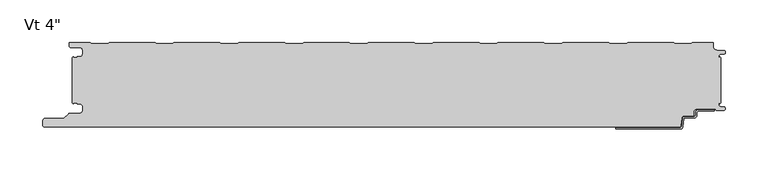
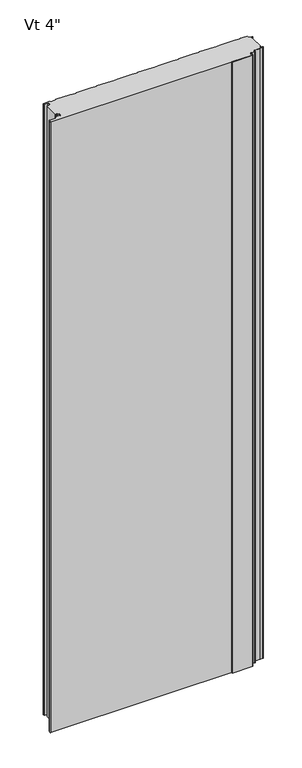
"""IFC4 building model written with IfcOpenShell, lengths in millimetres: plate geometry."""

from ifc_helpers import new_model, si_unit, frame, origin, place, context, project, spatial, polyline, circle_curve, source, transform, mapped, element, save
from ifc_brep_helpers import plane_surface, cylinder_surface, revolved_surface, advanced_brep


def plate_435c7ef1(model_context):
    return source(origin(), model_context, "Body", "AdvancedBrep", [
        advanced_brep(
        [(354.8464083, -80.5008679, 0.0), (373.5916083, -80.5008679, 0.0), (373.5916083, -82.0248679, 0.0), (354.8464083, -82.0248679, 0.0), (353.3224083, -83.5488679, 0.0), (353.3224083, -86.6476679, 0.0), (349.8680083, -90.1020679, 0.0), (338.655451, -90.1020679, 0.0), (337.8963506, -90.7976552, 0.0), (336.701523, -100.3416507, 0.0), (333.6651216, -103.124, 0.0), (258.0978083, -103.1360323, 0.0), (258.0978083, -101.6, 0.0), (333.6651216, -101.6, 0.0), (335.1833223, -100.2088254, 0.0), (336.3781499, -90.6648299, 0.0), (338.655451, -88.5780679, 0.0), (349.8680083, -88.5780679, 0.0), (351.7984083, -86.6476679, 0.0), (351.7984083, -83.5488679, 0.0), (354.8464083, -80.5008679, 2400.0), (351.7984083, -83.5488679, 2400.0), (351.7984083, -86.6476679, 2400.0), (349.8680083, -88.5780679, 2400.0), (338.655451, -88.5780679, 2400.0), (336.3781499, -90.6648299, 2400.0), (335.1833223, -100.2088254, 2400.0), (333.6651216, -101.6, 2400.0), (258.0978083, -101.6, 2400.0), (258.0978083, -103.1360323, 2400.0), (333.6651216, -103.1360323, 2400.0), (336.701523, -100.3416507, 2400.0), (337.8963506, -90.7976552, 2400.0), (338.655451, -90.1020679, 2400.0), (349.8680083, -90.1020679, 2400.0), (353.3224083, -86.6476679, 2400.0), (353.3224083, -83.5488679, 2400.0), (354.8464083, -82.0248679, 2400.0), (373.5916083, -82.0248679, 2400.0), (373.5916083, -80.5008679, 2400.0)],
        [
            (0, 1),
            (1, 2),
            (2, 3),
            (3, 4, circle_curve(frame((354.8464083, -83.5488679, 0.0), z_axis=(0.0, 0.0, 1.0), x_axis=(0.0, 1.0, 0.0)), 1.524)),
            (4, 5),
            (5, 6, circle_curve(frame((349.8680083, -86.6476679, 0.0), z_axis=(0.0, 0.0, -1.0), x_axis=(0.0, 1.0, 0.0)), 3.4544)),
            (6, 7),
            (7, 8, circle_curve(frame((338.655451, -90.8640679, 0.0), z_axis=(0.0, 0.0, 1.0), x_axis=(0.0, 1.0, 0.0)), 0.762)),
            (8, 9),
            (9, 10, circle_curve(frame((333.6651216, -100.076, 0.0), z_axis=(0.0, 0.0, -1.0), x_axis=(0.0, 1.0, 0.0)), 3.048)),
            (10, 11),
            (11, 12),
            (12, 13),
            (13, 14, circle_curve(frame((333.6651216, -100.076, 0.0), z_axis=(0.0, 0.0, 1.0), x_axis=(0.0, 1.0, 0.0)), 1.524)),
            (14, 15),
            (15, 16, circle_curve(frame((338.655451, -90.8640679, 0.0), z_axis=(0.0, 0.0, -1.0), x_axis=(0.0, 1.0, 0.0)), 2.286)),
            (16, 17),
            (17, 18, circle_curve(frame((349.8680083, -86.6476679, 0.0), z_axis=(0.0, 0.0, 1.0), x_axis=(0.0, 1.0, 0.0)), 1.9304)),
            (18, 19),
            (19, 0, circle_curve(frame((354.8464083, -83.5488679, 0.0), z_axis=(0.0, 0.0, -1.0), x_axis=(0.0, 1.0, 0.0)), 3.048)),
            (20, 21, circle_curve(frame((354.8464083, -83.5488679, 2400.0), z_axis=(0.0, 0.0, 1.0), x_axis=(0.0, 1.0, 0.0)), 3.048)),
            (21, 22),
            (22, 23, circle_curve(frame((349.8680083, -86.6476679, 2400.0), z_axis=(0.0, 0.0, -1.0), x_axis=(0.0, 1.0, 0.0)), 1.9304)),
            (23, 24),
            (24, 25, circle_curve(frame((338.655451, -90.8640679, 2400.0), z_axis=(0.0, 0.0, 1.0), x_axis=(0.0, 1.0, 0.0)), 2.286)),
            (25, 26),
            (26, 27, circle_curve(frame((333.6651216, -100.076, 2400.0), z_axis=(0.0, 0.0, -1.0), x_axis=(0.0, 1.0, 0.0)), 1.524)),
            (27, 28),
            (28, 29),
            (29, 30),
            (30, 31, circle_curve(frame((333.6651216, -100.076, 2400.0), z_axis=(0.0, 0.0, 1.0), x_axis=(0.0, 1.0, 0.0)), 3.048)),
            (31, 32),
            (32, 33, circle_curve(frame((338.655451, -90.8640679, 2400.0), z_axis=(0.0, 0.0, -1.0), x_axis=(0.0, 1.0, 0.0)), 0.762)),
            (33, 34),
            (34, 35, circle_curve(frame((349.8680083, -86.6476679, 2400.0), z_axis=(0.0, 0.0, 1.0), x_axis=(0.0, 1.0, 0.0)), 3.4544)),
            (35, 36),
            (36, 37, circle_curve(frame((354.8464083, -83.5488679, 2400.0), z_axis=(0.0, 0.0, -1.0), x_axis=(0.0, 1.0, 0.0)), 1.524)),
            (37, 38),
            (38, 39),
            (39, 20),
            (2, 38),
            (37, 3),
            (15, 25),
            (24, 16),
            (7, 33),
            (32, 8),
            (5, 35),
            (34, 6),
            (1, 39),
            (36, 4),
            (9, 31),
            (30, 10),
            (13, 27),
            (26, 14),
            (0, 20),
            (12, 28),
            (29, 11),
            (23, 17),
            (18, 22),
            (21, 19),
        ],
        [
            plane_surface(frame((373.5916083, -101.6, 0.0), z_axis=(0.0, 0.0, -1.0), x_axis=(-1.0, 0.0, 0.0))),
            plane_surface(frame((373.5916083, -101.6, 2400.0), z_axis=(0.0, 0.0, 1.0), x_axis=(-1.0, 0.0, 0.0))),
            plane_surface(frame((354.8464083, -82.0248679, 0.0), z_axis=(0.0, -1.0, 0.0), x_axis=(0.0, 0.0, 1.0))),
            cylinder_surface(frame((338.655451, -90.8640679, 0.0), z_axis=(0.0, 0.0, -1.0), x_axis=(0.0, 1.0, 0.0)), 2.286),
            revolved_surface(polyline([(338.655451, -90.1020679, 2400.0), (338.655451, -90.1020679, 0.0)]), (338.655451, -90.8640679, 0.0), (0.0, 0.0, 1.0)),
            cylinder_surface(frame((349.8680083, -86.6476679, 0.0), z_axis=(0.0, 0.0, -1.0), x_axis=(0.0, 1.0, 0.0)), 3.4544),
            plane_surface(frame((373.5916083, -82.0248679, 0.0), z_axis=(1.0, 0.0, 0.0), x_axis=(0.0, 0.0, 1.0))),
            revolved_surface(polyline([(354.8464083, -82.0248679, 2400.0), (354.8464083, -82.0248679, 0.0)]), (354.8464083, -83.5488679, 0.0), (0.0, 0.0, 1.0)),
            cylinder_surface(frame((333.6651216, -100.076, 0.0), z_axis=(0.0, 0.0, -1.0), x_axis=(0.0, 1.0, 0.0)), 3.048),
            revolved_surface(polyline([(333.6651216, -98.55199999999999, 2400.0), (333.6651216, -98.55199999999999, 0.0)]), (333.6651216, -100.076, 0.0), (0.0, 0.0, 1.0)),
            plane_surface(frame((373.5916083, -80.5008679, 0.0), z_axis=(0.0, 1.0, 0.0), x_axis=(0.0, 0.0, 1.0))),
            plane_surface(frame((336.3781499, -90.6648299, 0.0), z_axis=(-0.9922544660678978, 0.12422187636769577, 0.0), x_axis=(0.0, 0.0, 1.0))),
            plane_surface(frame((333.6651216, -101.6, 0.0), z_axis=(0.0, 1.0, 0.0), x_axis=(0.0, 0.0, 1.0))),
            plane_surface(frame((336.701523, -100.3416507, 0.0), z_axis=(0.9922544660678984, -0.12422187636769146, 0.0), x_axis=(0.0, 0.0, 1.0))),
            plane_surface(frame((353.3224083, -86.6476679, 0.0), z_axis=(1.0, 0.0, 0.0), x_axis=(0.0, 0.0, 1.0))),
            plane_surface(frame((258.0978083, -103.1360323, 0.0), z_axis=(0.0, -1.0, 0.0), x_axis=(0.0, 0.0, 1.0))),
            plane_surface(frame((258.0978083, -101.6, 0.0), z_axis=(-1.0, 0.0, 0.0), x_axis=(0.0, 0.0, 1.0))),
            plane_surface(frame((349.8680083, -88.5780679, 0.0), z_axis=(0.0, 1.0, 0.0), x_axis=(0.0, 0.0, 1.0))),
            plane_surface(frame((351.7984083, -83.5488679, 0.0), z_axis=(-1.0, 0.0, 0.0), x_axis=(0.0, 0.0, 1.0))),
            plane_surface(frame((338.655451, -90.1020679, 0.0), z_axis=(0.0, -1.0, 0.0), x_axis=(0.0, 0.0, 1.0))),
            revolved_surface(polyline([(349.8680083, -84.7172679, 2400.0), (349.8680083, -84.7172679, 0.0)]), (349.8680083, -86.6476679, 0.0), (0.0, 0.0, 1.0)),
            cylinder_surface(frame((354.8464083, -83.5488679, 0.0), z_axis=(0.0, 0.0, -1.0), x_axis=(0.0, 1.0, 0.0)), 3.048),
        ],
        [
            (0, [[1, 2, 3, 4, 5, 6, 7, 8, 9, 10, 11, 12, 13, 14, 15, 16, 17, 18, 19, 20]]),
            (1, [[21, 22, 23, 24, 25, 26, 27, 28, 29, 30, 31, 32, 33, 34, 35, 36, 37, 38, 39, 40]]),
            (2, [[41, -38, 42, -3]]),
            (3, [[43, -25, 44, -16]]),
            (4, [[45, -33, 46, -8]]),
            (5, [[47, -35, 48, -6]]),
            (6, [[49, -39, -41, -2]]),
            (7, [[-42, -37, 50, -4]]),
            (8, [[51, -31, 52, -10]]),
            (9, [[53, -27, 54, -14]]),
            (10, [[55, -40, -49, -1]]),
            (11, [[-54, -26, -43, -15]]),
            (12, [[56, -28, -53, -13]]),
            (13, [[-46, -32, -51, -9]]),
            (14, [[-50, -36, -47, -5]]),
            (15, [[-52, -30, 57, -11]]),
            (16, [[-57, -29, -56, -12]]),
            (17, [[-44, -24, 58, -17]]),
            (18, [[59, -22, 60, -19]]),
            (19, [[-48, -34, -45, -7]]),
            (20, [[-58, -23, -59, -18]]),
            (21, [[-60, -21, -55, -20]]),
        ],
    ),
        advanced_brep(
        [(-379.9683001, -73.2708722, 2400.0), (-378.7671761, -72.1013975, 2400.0), (-375.0087827, -72.1013975, 2400.0), (-375.0087827, -73.4998764, 2400.0), (-372.3096717, -73.4998764, 2400.0), (-368.9596764, -76.8498717, 2400.0), (-368.9596764, -81.2498629, 2400.0), (-372.3096717, -84.5998582, 2400.0), (-384.1205608, -84.5998582, 2400.0), (-385.3226385, -85.0977751, 2400.0), (-390.8247096, -90.5998462, 2400.0), (-412.9198392, -90.5998462, 2400.0), (-415.5765709, -92.8184482, 2400.0), (-416.0125699, -97.8002691, 2400.0), (-413.4521176, -100.594594, 2400.0), (332.515622, -100.5999973, 2400.0), (334.4669057, -98.8149232, 2400.0), (335.221161, -90.3539464, 2400.0), (338.3653654, -87.5906435, 2400.0), (348.4583308, -87.5906435, 2400.0), (349.4097394, -86.6392348, 2400.0), (349.4097394, -83.4955794, 2400.0), (353.4091924, -79.4961265, 2400.0), (374.5895515, -79.4961265, 2400.0), (375.7334028, -81.4769743, 2400.0), (384.706811, -81.121714, 2400.0), (384.7037148, -76.9211364, 2400.0), (380.6977997, -76.6767215, 2400.0), (378.9686884, -74.8819089, 2400.0), (378.9686884, -72.0973623, 2400.0), (379.9686884, -72.0973623, 2400.0), (379.9686884, -73.6848623, 2400.0), (381.0, -72.6535507, 2400.0), (381.0, -18.6184498, 2400.0), (379.9686884, -17.5871382, 2400.0), (379.9686884, -19.0015261, 2400.0), (378.9686884, -19.0015261, 2400.0), (378.9686884, -16.6743434, 2400.0), (380.6513685, -14.9256402, 2400.0), (384.7921924, -14.7059795, 2400.0), (384.7931719, -10.4046415, 2400.0), (376.3016499, -9.9974338, 2400.0), (372.4787013, -6.002598, 2400.0), (372.4787013, -0.9999973, 2400.0), (347.9790963, -0.9999973, 2400.0), (346.5934634, -2.200228, 2400.0), (327.2182971, -2.200228, 2400.0), (325.8326641, -0.9999973, 2400.0), (271.7792487, -0.9999973, 2400.0), (270.3936158, -2.200228, 2400.0), (251.0184495, -2.200228, 2400.0), (249.6328165, -0.9999973, 2400.0), (195.5794011, -0.9999973, 2400.0), (194.1937682, -2.200228, 2400.0), (174.8186019, -2.200228, 2400.0), (173.4329689, -0.9999973, 2400.0), (119.3795535, -0.9999973, 2400.0), (117.9939206, -2.200228, 2400.0), (98.6187543, -2.200228, 2400.0), (97.2331213, -0.9999973, 2400.0), (43.1797059, -0.9999973, 2400.0), (41.794073, -2.200228, 2400.0), (22.4189067, -2.200228, 2400.0), (21.0332737, -0.9999973, 2400.0), (-33.0201417, -0.9999973, 2400.0), (-34.4057746, -2.200228, 2400.0), (-53.7809409, -2.200228, 2400.0), (-55.1665739, -0.9999973, 2400.0), (-109.2199893, -0.9999973, 2400.0), (-110.6056222, -2.200228, 2400.0), (-129.9807885, -2.200228, 2400.0), (-131.3664215, -0.9999973, 2400.0), (-185.4198369, -0.9999973, 2400.0), (-186.8054698, -2.200228, 2400.0), (-206.1806361, -2.200228, 2400.0), (-207.5662691, -0.9999973, 2400.0), (-261.6196845, -0.9999973, 2400.0), (-263.0053174, -2.200228, 2400.0), (-282.3804837, -2.200228, 2400.0), (-283.7661167, -0.9999973, 2400.0), (-337.8195321, -0.9999973, 2400.0), (-339.205165, -2.200228, 2400.0), (-358.5803313, -2.200228, 2400.0), (-359.965974, -0.9999889, 2400.0), (-384.4662506, -0.9999889, 2400.0), (-384.4662506, -5.2315362, 2400.0), (-382.6962564, -7.0015304, 2400.0), (-372.2762778, -7.0015304, 2400.0), (-368.976282, -10.3015263, 2400.0), (-368.976282, -14.7015175, 2400.0), (-372.2762777, -18.0015132, 2400.0), (-374.9684875, -18.0015132, 2400.0), (-374.9684875, -19.0015077, 2400.0), (-378.9686911, -19.0015077, 2400.0), (-379.9686883, -18.0015165, 2400.0), (-381.0, -19.0328281, 2400.0), (-381.0, -72.2391724, 2400.0), (-379.9683001, -73.2708722, 0.0), (-381.0, -72.2391724, 0.0), (-381.0, -19.0328281, 0.0), (-379.9686883, -18.0015165, 0.0), (-378.9686911, -19.0015077, 0.0), (-374.9684875, -19.0015077, 0.0), (-374.9684875, -18.0015132, 0.0), (-372.2762777, -18.0015132, 0.0), (-368.976282, -14.7015175, 0.0), (-368.976282, -10.3015263, 0.0), (-372.2762778, -7.0015304, 0.0), (-382.6962564, -7.0015304, 0.0), (-384.4662506, -5.2315362, 0.0), (-384.4662506, -0.9999889, 0.0), (-359.965974, -0.9999889, 0.0), (-358.5803313, -2.200228, 0.0), (-339.205165, -2.200228, 0.0), (-337.8195321, -0.9999973, 0.0), (-283.7661167, -0.9999973, 0.0), (-282.3804837, -2.200228, 0.0), (-263.0053174, -2.200228, 0.0), (-261.6196845, -0.9999973, 0.0), (-207.5662691, -0.9999973, 0.0), (-206.1806361, -2.200228, 0.0), (-186.8054698, -2.200228, 0.0), (-185.4198369, -0.9999973, 0.0), (-131.3664215, -0.9999973, 0.0), (-129.9807885, -2.200228, 0.0), (-110.6056222, -2.200228, 0.0), (-109.2199893, -0.9999973, 0.0), (-55.1665739, -0.9999973, 0.0), (-53.7809409, -2.200228, 0.0), (-34.4057746, -2.200228, 0.0), (-33.0201417, -0.9999973, 0.0), (21.0332737, -0.9999973, 0.0), (22.4189067, -2.200228, 0.0), (41.794073, -2.200228, 0.0), (43.1797059, -0.9999973, 0.0), (97.2331213, -0.9999973, 0.0), (98.6187543, -2.200228, 0.0), (117.9939206, -2.200228, 0.0), (119.3795535, -0.9999973, 0.0), (173.4329689, -0.9999973, 0.0), (174.8186019, -2.200228, 0.0), (194.1937682, -2.200228, 0.0), (195.5794011, -0.9999973, 0.0), (249.6328165, -0.9999973, 0.0), (251.0184495, -2.200228, 0.0), (270.3936158, -2.200228, 0.0), (271.7792487, -0.9999973, 0.0), (325.8326641, -0.9999973, 0.0), (327.2182971, -2.200228, 0.0), (346.5934634, -2.200228, 0.0), (347.9790963, -0.9999973, 0.0), (372.4787013, -0.9999973, 0.0), (372.4787013, -6.002598, 0.0), (376.3016499, -9.9974338, 0.0), (384.7931719, -10.4046415, 0.0), (384.7921924, -14.7059795, 0.0), (380.6513685, -14.9256402, 0.0), (378.9686884, -16.6743434, 0.0), (378.9686884, -19.0015261, 0.0), (379.9686884, -19.0015261, 0.0), (379.9686884, -17.5871382, 0.0), (381.0, -18.6184498, 0.0), (381.0, -72.6535507, 0.0), (379.9686884, -73.6848623, 0.0), (379.9686884, -72.0973623, 0.0), (378.9686884, -72.0973623, 0.0), (378.9686884, -74.8819089, 0.0), (380.6977997, -76.6767215, 0.0), (384.7037148, -76.9211364, 0.0), (384.706811, -81.121714, 0.0), (375.7334028, -81.4769743, 0.0), (374.5895515, -79.4961265, 0.0), (353.4091924, -79.4961265, 0.0), (349.4097394, -83.4955794, 0.0), (349.4097394, -86.6392348, 0.0), (348.4583308, -87.5906435, 0.0), (338.3653654, -87.5906435, 0.0), (335.221161, -90.3539464, 0.0), (334.4669057, -98.8149232, 0.0), (332.515622, -100.5999973, 0.0), (-413.4521176, -100.5999973, 0.0), (-416.0125699, -97.8002691, 0.0), (-415.5765709, -92.8184482, 0.0), (-412.9198392, -90.5998462, 0.0), (-390.8247096, -90.5998462, 0.0), (-385.3226385, -85.0977751, 0.0), (-384.1205608, -84.5998582, 0.0), (-372.3096717, -84.5998582, 0.0), (-368.9596764, -81.2498629, 0.0), (-368.9596764, -76.8498717, 0.0), (-372.3096717, -73.4998764, 0.0), (-375.0087827, -73.4998764, 0.0), (-375.0087827, -72.1013975, 0.0), (-378.7671761, -72.1013975, 0.0)],
        [
            (0, 1, circle_curve(frame((-378.7686908, -73.3013942, 2400.0), z_axis=(0.0, 0.0, -1.0), x_axis=(-1.0, 0.0, 0.0)), 1.1999976)),
            (1, 2),
            (2, 3),
            (3, 4),
            (4, 5, circle_curve(frame((-372.3096717, -76.8498717, 2400.0), z_axis=(0.0, 0.0, -1.0), x_axis=(-1.0, 0.0, 0.0)), 3.3499953)),
            (5, 6),
            (6, 7, circle_curve(frame((-372.3096717, -81.2498629, 2400.0), z_axis=(0.0, 0.0, -1.0), x_axis=(-1.0, 0.0, 0.0)), 3.3499953)),
            (7, 8),
            (8, 9, circle_curve(frame((-384.1205608, -86.2998528, 2400.0), z_axis=(0.0, 0.0, 1.0), x_axis=(-1.0, 0.0, 0.0)), 1.6999946)),
            (9, 10),
            (10, 11),
            (11, 12, circle_curve(frame((-412.9198392, -93.2998388, 2400.0), z_axis=(0.0, 0.0, 1.0), x_axis=(-1.0, 0.0, 0.0)), 2.6999926)),
            (12, 13),
            (13, 14, circle_curve(frame((-413.4521176, -98.0243547, 2400.0), z_axis=(0.0, 0.0, 1.0), x_axis=(-1.0, 0.0, 0.0)), 2.5702393)),
            (14, 15),
            (15, 16, circle_curve(frame((332.515622, -98.6409756, 2400.0), z_axis=(0.0, 0.0, 1.0), x_axis=(-1.0, 0.0, 0.0)), 1.9590216)),
            (16, 17),
            (17, 18, circle_curve(frame((338.2396267, -90.6180294, 2400.0), z_axis=(0.0, 0.0, -1.0), x_axis=(-1.0, 0.0, 0.0)), 3.0299959)),
            (18, 19),
            (19, 20, circle_curve(frame((348.4583308, -86.6392348, 2400.0), z_axis=(0.0, 0.0, 1.0), x_axis=(-1.0, 0.0, 0.0)), 0.9514087)),
            (20, 21),
            (21, 22, circle_curve(frame((353.4091924, -83.4955794, 2400.0), z_axis=(0.0, 0.0, -1.0), x_axis=(-1.0, 0.0, 0.0)), 3.9994529)),
            (22, 23),
            (23, 24),
            (24, 25),
            (25, 26, circle_curve(frame((384.6236622, -79.0214853, 2400.0), z_axis=(0.0, 0.0, 1.0), x_axis=(-1.0, 0.0, 0.0)), 2.1018739)),
            (26, 27),
            (27, 28, circle_curve(frame((380.8099653, -74.8383479, 2400.0), z_axis=(0.0, 0.0, -1.0), x_axis=(-1.0, 0.0, 0.0)), 1.8417922)),
            (28, 29),
            (29, 30),
            (30, 31),
            (31, 32),
            (32, 33),
            (33, 34),
            (34, 35),
            (35, 36),
            (36, 37),
            (37, 38, circle_curve(frame((380.7186869, -16.6743434, 2400.0), z_axis=(0.0, 0.0, -1.0), x_axis=(1.0, 0.0, 0.0)), 1.7499985)),
            (38, 39),
            (39, 40, circle_curve(frame((384.6781032, -12.5552844, 2400.0), z_axis=(0.0, 0.0, 1.0), x_axis=(1.0, 0.0, 0.0)), 2.153719)),
            (40, 41),
            (41, 42, circle_curve(frame((376.4939817, -5.9867311, 2400.0), z_axis=(0.0, 0.0, -1.0), x_axis=(1.0, 0.0, 0.0)), 4.0153117)),
            (42, 43),
            (43, 44),
            (44, 45),
            (45, 46),
            (46, 47),
            (47, 48),
            (48, 49),
            (49, 50),
            (50, 51),
            (51, 52),
            (52, 53),
            (53, 54),
            (54, 55),
            (55, 56),
            (56, 57),
            (57, 58),
            (58, 59),
            (59, 60),
            (60, 61),
            (61, 62),
            (62, 63),
            (63, 64),
            (64, 65),
            (65, 66),
            (66, 67),
            (67, 68),
            (68, 69),
            (69, 70),
            (70, 71),
            (71, 72),
            (72, 73),
            (73, 74),
            (74, 75),
            (75, 76),
            (76, 77),
            (77, 78),
            (78, 79),
            (79, 80),
            (80, 81),
            (81, 82),
            (82, 83),
            (83, 84),
            (84, 85),
            (85, 86, circle_curve(frame((-382.6962564, -5.2315362, 2400.0), z_axis=(0.0, 0.0, 1.0), x_axis=(1.0, 0.0, 0.0)), 1.7699942)),
            (86, 87),
            (87, 88, circle_curve(frame((-372.2762778, -10.3015263, 2400.0), z_axis=(0.0, 0.0, -1.0), x_axis=(1.0, 0.0, 0.0)), 3.2999959)),
            (88, 89),
            (89, 90, circle_curve(frame((-372.2762777, -14.7015175, 2400.0), z_axis=(0.0, 0.0, -1.0), x_axis=(1.0, 0.0, 0.0)), 3.2999957)),
            (90, 91),
            (91, 92),
            (92, 93),
            (93, 94, circle_curve(frame((-378.9686911, -18.0015105, 2400.0), z_axis=(0.0, 0.0, -1.0), x_axis=(1.0, 0.0, 0.0)), 0.9999972)),
            (94, 95),
            (95, 96),
            (96, 0),
            (97, 98),
            (98, 99),
            (99, 100),
            (100, 101, circle_curve(frame((-378.9686911, -18.0015105, 0.0), z_axis=(0.0, 0.0, 1.0), x_axis=(1.0, 0.0, 0.0)), 0.9999972)),
            (101, 102),
            (102, 103),
            (103, 104),
            (104, 105, circle_curve(frame((-372.2762777, -14.7015175, 0.0), z_axis=(0.0, 0.0, 1.0), x_axis=(1.0, 0.0, 0.0)), 3.2999957)),
            (105, 106),
            (106, 107, circle_curve(frame((-372.2762778, -10.3015263, 0.0), z_axis=(0.0, 0.0, 1.0), x_axis=(1.0, 0.0, 0.0)), 3.2999959)),
            (107, 108),
            (108, 109, circle_curve(frame((-382.6962564, -5.2315362, 0.0), z_axis=(0.0, 0.0, -1.0), x_axis=(1.0, 0.0, 0.0)), 1.7699942)),
            (109, 110),
            (110, 111),
            (111, 112),
            (112, 113),
            (113, 114),
            (114, 115),
            (115, 116),
            (116, 117),
            (117, 118),
            (118, 119),
            (119, 120),
            (120, 121),
            (121, 122),
            (122, 123),
            (123, 124),
            (124, 125),
            (125, 126),
            (126, 127),
            (127, 128),
            (128, 129),
            (129, 130),
            (130, 131),
            (131, 132),
            (132, 133),
            (133, 134),
            (134, 135),
            (135, 136),
            (136, 137),
            (137, 138),
            (138, 139),
            (139, 140),
            (140, 141),
            (141, 142),
            (142, 143),
            (143, 144),
            (144, 145),
            (145, 146),
            (146, 147),
            (147, 148),
            (148, 149),
            (149, 150),
            (150, 151),
            (151, 152),
            (152, 153, circle_curve(frame((376.4939817, -5.9867311, 0.0), z_axis=(0.0, 0.0, 1.0), x_axis=(1.0, 0.0, 0.0)), 4.0153117)),
            (153, 154),
            (154, 155, circle_curve(frame((384.6781032, -12.5552844, 0.0), z_axis=(0.0, 0.0, -1.0), x_axis=(1.0, 0.0, 0.0)), 2.153719)),
            (155, 156),
            (156, 157, circle_curve(frame((380.7186869, -16.6743434, 0.0), z_axis=(0.0, 0.0, 1.0), x_axis=(1.0, 0.0, 0.0)), 1.7499985)),
            (157, 158),
            (158, 159),
            (159, 160),
            (160, 161),
            (161, 162),
            (162, 163),
            (163, 164),
            (164, 165),
            (165, 166),
            (166, 167, circle_curve(frame((380.8099653, -74.8383479, 0.0), z_axis=(0.0, 0.0, 1.0), x_axis=(-1.0, 0.0, 0.0)), 1.8417922)),
            (167, 168),
            (168, 169, circle_curve(frame((384.6236622, -79.0214853, 0.0), z_axis=(0.0, 0.0, -1.0), x_axis=(-1.0, 0.0, 0.0)), 2.1018739)),
            (169, 170),
            (170, 171),
            (171, 172),
            (172, 173, circle_curve(frame((353.4091924, -83.4955794, 0.0), z_axis=(0.0, 0.0, 1.0), x_axis=(-1.0, 0.0, 0.0)), 3.9994529)),
            (173, 174),
            (174, 175, circle_curve(frame((348.4583308, -86.6392348, 0.0), z_axis=(0.0, 0.0, -1.0), x_axis=(-1.0, 0.0, 0.0)), 0.9514087)),
            (175, 176),
            (176, 177, circle_curve(frame((338.2396267, -90.6180294, 0.0), z_axis=(0.0, 0.0, 1.0), x_axis=(-1.0, 0.0, 0.0)), 3.0299959)),
            (177, 178),
            (178, 179, circle_curve(frame((332.515622, -98.6409756, 0.0), z_axis=(0.0, 0.0, -1.0), x_axis=(-1.0, 0.0, 0.0)), 1.9590216)),
            (179, 180),
            (180, 181, circle_curve(frame((-413.4521176, -98.0243547, 0.0), z_axis=(0.0, 0.0, -1.0), x_axis=(-1.0, 0.0, 0.0)), 2.5702393)),
            (181, 182),
            (182, 183, circle_curve(frame((-412.9198392, -93.2998388, 0.0), z_axis=(0.0, 0.0, -1.0), x_axis=(-1.0, 0.0, 0.0)), 2.6999926)),
            (183, 184),
            (184, 185),
            (185, 186, circle_curve(frame((-384.1205608, -86.2998528, 0.0), z_axis=(0.0, 0.0, -1.0), x_axis=(-1.0, 0.0, 0.0)), 1.6999946)),
            (186, 187),
            (187, 188, circle_curve(frame((-372.3096717, -81.2498629, 0.0), z_axis=(0.0, 0.0, 1.0), x_axis=(-1.0, 0.0, 0.0)), 3.3499953)),
            (188, 189),
            (189, 190, circle_curve(frame((-372.3096717, -76.8498717, 0.0), z_axis=(0.0, 0.0, 1.0), x_axis=(-1.0, 0.0, 0.0)), 3.3499953)),
            (190, 191),
            (191, 192),
            (192, 193),
            (193, 97, circle_curve(frame((-378.7686908, -73.3013942, 0.0), z_axis=(0.0, 0.0, 1.0), x_axis=(-1.0, 0.0, 0.0)), 1.1999976)),
            (96, 98),
            (97, 0),
            (95, 99),
            (32, 162),
            (161, 33),
            (31, 163),
            (30, 164),
            (29, 165),
            (28, 166),
            (27, 167),
            (26, 168),
            (25, 169),
            (24, 170),
            (23, 171),
            (22, 172),
            (21, 173),
            (20, 174),
            (19, 175),
            (18, 176),
            (17, 177),
            (16, 178),
            (15, 179),
            (14, 180),
            (13, 181),
            (12, 182),
            (11, 183),
            (10, 184),
            (9, 185),
            (8, 186),
            (7, 187),
            (6, 188),
            (5, 189),
            (4, 190),
            (3, 191),
            (2, 192),
            (1, 193),
            (94, 100),
            (93, 101),
            (92, 102),
            (91, 103),
            (90, 104),
            (89, 105),
            (88, 106),
            (87, 107),
            (86, 108),
            (85, 109),
            (84, 110),
            (83, 111),
            (82, 112),
            (81, 113),
            (80, 114),
            (79, 115),
            (78, 116),
            (77, 117),
            (76, 118),
            (75, 119),
            (74, 120),
            (73, 121),
            (72, 122),
            (71, 123),
            (70, 124),
            (69, 125),
            (68, 126),
            (67, 127),
            (66, 128),
            (65, 129),
            (64, 130),
            (63, 131),
            (62, 132),
            (61, 133),
            (60, 134),
            (59, 135),
            (58, 136),
            (57, 137),
            (56, 138),
            (55, 139),
            (54, 140),
            (53, 141),
            (52, 142),
            (51, 143),
            (50, 144),
            (49, 145),
            (48, 146),
            (47, 147),
            (46, 148),
            (45, 149),
            (44, 150),
            (43, 151),
            (42, 152),
            (41, 153),
            (40, 154),
            (39, 155),
            (38, 156),
            (37, 157),
            (36, 158),
            (35, 159),
            (34, 160),
        ],
        [
            plane_surface(frame((0.0, -100.5999973, 2400.0), z_axis=(0.0, 0.0, 1.0), x_axis=(0.0, -1.0, 0.0))),
            plane_surface(frame((0.0, -100.5999973, 0.0), z_axis=(0.0, 0.0, -1.0), x_axis=(0.0, -1.0, 0.0))),
            plane_surface(frame((-379.9683001, -73.2708722, 2400.0), z_axis=(-0.707106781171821, -0.707106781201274, 0.0), x_axis=(0.0, 0.0, -1.0))),
            plane_surface(frame((-381.0, -72.2391724, 2400.0), z_axis=(-1.0, 0.0, 0.0), x_axis=(0.0, 0.0, -1.0))),
            plane_surface(frame((381.0, -71.2391724, 2400.0), z_axis=(1.0, 0.0, 0.0), x_axis=(0.0, 0.0, -1.0))),
            plane_surface(frame((381.0, -72.6535507, 2400.0), z_axis=(0.7071067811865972, -0.7071067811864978, 0.0), x_axis=(0.0, 0.0, -1.0))),
            plane_surface(frame((379.9686884, -73.6848623, 2400.0), z_axis=(-1.0, 0.0, 0.0), x_axis=(0.0, 0.0, -1.0))),
            plane_surface(frame((379.9686884, -72.0973623, 2400.0), z_axis=(0.0, -1.0, 0.0), x_axis=(0.0, 0.0, -1.0))),
            plane_surface(frame((378.9686884, -72.0973623, 2400.0), z_axis=(1.0, 0.0, 0.0), x_axis=(0.0, 0.0, -1.0))),
            revolved_surface(polyline([(378.9681731, -74.8383479, 0.0), (378.9681731, -74.8383479, 2400.0)]), (380.8099653, -74.8383479, 2400.0), (0.0, 0.0, -1.0)),
            plane_surface(frame((380.6977997, -76.6767215, 2400.0), z_axis=(0.06090025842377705, 0.9981438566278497, 0.0), x_axis=(0.0, 0.0, -1.0))),
            cylinder_surface(frame((384.6236622, -79.0214853, 2400.0), z_axis=(0.0, 0.0, 1.0), x_axis=(-1.0, 0.0, 0.0)), 2.1018739),
            plane_surface(frame((384.706811, -81.121714, 2400.0), z_axis=(0.039559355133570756, -0.9992172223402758, 0.0), x_axis=(0.0, 0.0, -1.0))),
            plane_surface(frame((375.7334028, -81.4769743, 2400.0), z_axis=(-0.8659859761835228, -0.5000682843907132, 0.0), x_axis=(0.0, 0.0, -1.0))),
            plane_surface(frame((374.5895515, -79.4961265, 2400.0), z_axis=(0.0, -1.0, 0.0), x_axis=(0.0, 0.0, -1.0))),
            revolved_surface(polyline([(349.4097395, -83.4955794, 0.0), (349.4097395, -83.4955794, 2400.0)]), (353.4091924, -83.4955794, 2400.0), (0.0, 0.0, -1.0)),
            plane_surface(frame((349.4097394, -83.4955794, 2400.0), z_axis=(1.0, 0.0, 0.0), x_axis=(0.0, 0.0, -1.0))),
            cylinder_surface(frame((348.4583308, -86.6392348, 2400.0), z_axis=(0.0, 0.0, 1.0), x_axis=(-1.0, 0.0, 0.0)), 0.9514087),
            plane_surface(frame((348.4583308, -87.5906435, 2400.0), z_axis=(0.0, -1.0, 0.0), x_axis=(0.0, 0.0, -1.0))),
            revolved_surface(polyline([(335.20963079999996, -90.6180294, 0.0), (335.20963079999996, -90.6180294, 2400.0)]), (338.2396267, -90.6180294, 2400.0), (0.0, 0.0, -1.0)),
            plane_surface(frame((335.221161, -90.3539464, 2400.0), z_axis=(0.9960500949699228, -0.08879306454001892, 0.0), x_axis=(0.0, 0.0, -1.0))),
            cylinder_surface(frame((332.515622, -98.6409756, 2400.0), z_axis=(0.0, 0.0, 1.0), x_axis=(-1.0, 0.0, 0.0)), 1.9590216),
            plane_surface(frame((332.515622, -100.5999973, 2400.0), z_axis=(0.0, -1.0, 0.0), x_axis=(0.0, 0.0, -1.0))),
            cylinder_surface(frame((-413.4521176, -98.0243547, 2400.0), z_axis=(0.0, 0.0, 1.0), x_axis=(-1.0, 0.0, 0.0)), 2.5702393),
            plane_surface(frame((-416.0125699, -97.8002691, 2400.0), z_axis=(-0.9961921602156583, 0.08718474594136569, 0.0), x_axis=(0.0, 0.0, -1.0))),
            cylinder_surface(frame((-412.9198392, -93.2998388, 2400.0), z_axis=(0.0, 0.0, 1.0), x_axis=(-1.0, 0.0, 0.0)), 2.6999926),
            plane_surface(frame((-412.9198392, -90.5998462, 2400.0), z_axis=(0.0, 1.0, 0.0), x_axis=(0.0, 0.0, -1.0))),
            plane_surface(frame((-390.8247096, -90.5998462, 2400.0), z_axis=(-0.7071067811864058, 0.7071067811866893, 0.0), x_axis=(0.0, 0.0, -1.0))),
            cylinder_surface(frame((-384.1205608, -86.2998528, 2400.0), z_axis=(0.0, 0.0, 1.0), x_axis=(-1.0, 0.0, 0.0)), 1.6999946),
            plane_surface(frame((-384.1205608, -84.5998582, 2400.0), z_axis=(0.0, 1.0, 0.0), x_axis=(0.0, 0.0, -1.0))),
            revolved_surface(polyline([(-375.659667, -81.2498629, 0.0), (-375.659667, -81.2498629, 2400.0)]), (-372.3096717, -81.2498629, 2400.0), (0.0, 0.0, -1.0)),
            plane_surface(frame((-368.9596764, -81.2498629, 2400.0), z_axis=(-1.0, 0.0, 0.0), x_axis=(0.0, 0.0, -1.0))),
            revolved_surface(polyline([(-375.659667, -76.8498717, 0.0), (-375.659667, -76.8498717, 2400.0)]), (-372.3096717, -76.8498717, 2400.0), (0.0, 0.0, -1.0)),
            plane_surface(frame((-372.3096717, -73.4998764, 2400.0), z_axis=(0.0, -1.0, 0.0), x_axis=(0.0, 0.0, -1.0))),
            plane_surface(frame((-375.0087827, -73.4998764, 2400.0), z_axis=(-1.0, 0.0, 0.0), x_axis=(0.0, 0.0, -1.0))),
            plane_surface(frame((-375.0087827, -72.1013975, 2400.0), z_axis=(0.0, -1.0, 0.0), x_axis=(0.0, 0.0, -1.0))),
            revolved_surface(polyline([(-379.9686884, -73.3013942, 0.0), (-379.9686884, -73.3013942, 2400.0)]), (-378.7686908, -73.3013942, 2400.0), (0.0, 0.0, -1.0)),
            plane_surface(frame((-381.0, -19.0328281, 2400.0), z_axis=(-0.70710678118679, 0.707106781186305, 0.0), x_axis=(0.0, 0.0, -1.0))),
            revolved_surface(polyline([(-377.9686939, -18.0015105, 0.0), (-377.9686939, -18.0015105, 2400.0)]), (-378.9686911, -18.0015105, 2400.0), (0.0, 0.0, -1.0)),
            plane_surface(frame((-378.9686911, -19.0015077, 2400.0), z_axis=(0.0, 1.0, 0.0), x_axis=(0.0, 0.0, -1.0))),
            plane_surface(frame((-374.9684875, -19.0015077, 2400.0), z_axis=(-1.0, 0.0, 0.0), x_axis=(0.0, 0.0, -1.0))),
            plane_surface(frame((-374.9684875, -18.0015132, 2400.0), z_axis=(0.0, 1.0, 0.0), x_axis=(0.0, 0.0, -1.0))),
            revolved_surface(polyline([(-368.97628199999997, -14.7015175, 0.0), (-368.97628199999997, -14.7015175, 2400.0)]), (-372.2762777, -14.7015175, 2400.0), (0.0, 0.0, -1.0)),
            plane_surface(frame((-368.976282, -14.7015175, 2400.0), z_axis=(-1.0, 0.0, 0.0), x_axis=(0.0, 0.0, -1.0))),
            revolved_surface(polyline([(-368.9762819, -10.3015263, 0.0), (-368.9762819, -10.3015263, 2400.0)]), (-372.2762778, -10.3015263, 2400.0), (0.0, 0.0, -1.0)),
            plane_surface(frame((-372.2762778, -7.0015304, 2400.0), z_axis=(0.0, -1.0, 0.0), x_axis=(0.0, 0.0, -1.0))),
            cylinder_surface(frame((-382.6962564, -5.2315362, 2400.0), z_axis=(0.0, 0.0, 1.0), x_axis=(1.0, 0.0, 0.0)), 1.7699942),
            plane_surface(frame((-384.4662506, -5.2315362, 2400.0), z_axis=(-1.0, 0.0, 0.0), x_axis=(0.0, 0.0, -1.0))),
            plane_surface(frame((-384.4662506, -0.9999889, 2400.0), z_axis=(0.0, 1.0, 0.0), x_axis=(0.0, 0.0, -1.0))),
            plane_surface(frame((-359.965974, -0.9999889, 2400.0), z_axis=(0.6547276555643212, 0.7558648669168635, 0.0), x_axis=(0.0, 0.0, -1.0))),
            plane_surface(frame((-358.5803313, -2.200228, 2400.0), z_axis=(0.0, 1.0, 0.0), x_axis=(0.0, 0.0, -1.0))),
            plane_surface(frame((-339.205165, -2.200228, 2400.0), z_axis=(-0.6547276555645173, 0.7558648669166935, 0.0), x_axis=(0.0, 0.0, -1.0))),
            plane_surface(frame((-337.8195321, -0.9999973, 2400.0), z_axis=(0.0, 1.0, 0.0), x_axis=(0.0, 0.0, -1.0))),
            plane_surface(frame((-283.7661167, -0.9999973, 2400.0), z_axis=(0.65472765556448, 0.7558648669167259, 0.0), x_axis=(0.0, 0.0, -1.0))),
            plane_surface(frame((-282.3804837, -2.200228, 2400.0), z_axis=(0.0, 1.0, 0.0), x_axis=(0.0, 0.0, -1.0))),
            plane_surface(frame((-263.0053174, -2.200228, 2400.0), z_axis=(-0.6547276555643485, 0.7558648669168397, 0.0), x_axis=(0.0, 0.0, -1.0))),
            plane_surface(frame((-261.6196845, -0.9999973, 2400.0), z_axis=(0.0, 1.0, 0.0), x_axis=(0.0, 0.0, -1.0))),
            plane_surface(frame((-207.5662691, -0.9999973, 2400.0), z_axis=(0.6547276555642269, 0.7558648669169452, 0.0), x_axis=(0.0, 0.0, -1.0))),
            plane_surface(frame((-206.1806361, -2.200228, 2400.0), z_axis=(0.0, 1.0, 0.0), x_axis=(0.0, 0.0, -1.0))),
            plane_surface(frame((-186.8054698, -2.200228, 2400.0), z_axis=(-0.6547276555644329, 0.7558648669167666, 0.0), x_axis=(0.0, 0.0, -1.0))),
            plane_surface(frame((-185.4198369, -0.9999973, 2400.0), z_axis=(0.0, 1.0, 0.0), x_axis=(0.0, 0.0, -1.0))),
            plane_surface(frame((-131.3664215, -0.9999973, 2400.0), z_axis=(0.6547276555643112, 0.755864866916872, 0.0), x_axis=(0.0, 0.0, -1.0))),
            plane_surface(frame((-129.9807885, -2.200228, 2400.0), z_axis=(0.0, 1.0, 0.0), x_axis=(0.0, 0.0, -1.0))),
            plane_surface(frame((-110.6056222, -2.200228, 2400.0), z_axis=(-0.6547276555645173, 0.7558648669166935, 0.0), x_axis=(0.0, 0.0, -1.0))),
            plane_surface(frame((-109.2199893, -0.9999973, 2400.0), z_axis=(0.0, 1.0, 0.0), x_axis=(0.0, 0.0, -1.0))),
            plane_surface(frame((-55.1665739, -0.9999973, 2400.0), z_axis=(0.6547276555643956, 0.755864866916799, 0.0), x_axis=(0.0, 0.0, -1.0))),
            plane_surface(frame((-53.7809409, -2.200228, 2400.0), z_axis=(0.0, 1.0, 0.0), x_axis=(0.0, 0.0, -1.0))),
            plane_surface(frame((-34.4057746, -2.200228, 2400.0), z_axis=(-0.6547276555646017, 0.7558648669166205, 0.0), x_axis=(0.0, 0.0, -1.0))),
            plane_surface(frame((-33.0201417, -0.9999973, 2400.0), z_axis=(0.0, 1.0, 0.0), x_axis=(0.0, 0.0, -1.0))),
            plane_surface(frame((21.0332737, -0.9999973, 2400.0), z_axis=(0.65472765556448, 0.7558648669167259, 0.0), x_axis=(0.0, 0.0, -1.0))),
            plane_surface(frame((22.4189067, -2.200228, 2400.0), z_axis=(0.0, 1.0, 0.0), x_axis=(0.0, 0.0, -1.0))),
            plane_surface(frame((41.794073, -2.200228, 2400.0), z_axis=(-0.6547276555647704, 0.7558648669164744, 0.0), x_axis=(0.0, 0.0, -1.0))),
            plane_surface(frame((43.1797059, -0.9999973, 2400.0), z_axis=(0.0, 1.0, 0.0), x_axis=(0.0, 0.0, -1.0))),
            plane_surface(frame((97.2331213, -0.9999973, 2400.0), z_axis=(0.6547276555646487, 0.7558648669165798, 0.0), x_axis=(0.0, 0.0, -1.0))),
            plane_surface(frame((98.6187543, -2.200228, 2400.0), z_axis=(0.0, 1.0, 0.0), x_axis=(0.0, 0.0, -1.0))),
            plane_surface(frame((117.9939206, -2.200228, 2400.0), z_axis=(-0.6547276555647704, 0.7558648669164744, 0.0), x_axis=(0.0, 0.0, -1.0))),
            plane_surface(frame((119.3795535, -0.9999973, 2400.0), z_axis=(0.0, 1.0, 0.0), x_axis=(0.0, 0.0, -1.0))),
            plane_surface(frame((173.4329689, -0.9999973, 2400.0), z_axis=(0.6547276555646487, 0.7558648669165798, 0.0), x_axis=(0.0, 0.0, -1.0))),
            plane_surface(frame((174.8186019, -2.200228, 2400.0), z_axis=(0.0, 1.0, 0.0), x_axis=(0.0, 0.0, -1.0))),
            plane_surface(frame((194.1937682, -2.200228, 2400.0), z_axis=(-0.6547276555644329, 0.7558648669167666, 0.0), x_axis=(0.0, 0.0, -1.0))),
            plane_surface(frame((195.5794011, -0.9999973, 2400.0), z_axis=(0.0, 1.0, 0.0), x_axis=(0.0, 0.0, -1.0))),
            plane_surface(frame((249.6328165, -0.9999973, 2400.0), z_axis=(0.6547276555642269, 0.7558648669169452, 0.0), x_axis=(0.0, 0.0, -1.0))),
            plane_surface(frame((251.0184495, -2.200228, 2400.0), z_axis=(0.0, 1.0, 0.0), x_axis=(0.0, 0.0, -1.0))),
            plane_surface(frame((270.3936158, -2.200228, 2400.0), z_axis=(-0.6547276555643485, 0.7558648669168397, 0.0), x_axis=(0.0, 0.0, -1.0))),
            plane_surface(frame((271.7792487, -0.9999973, 2400.0), z_axis=(0.0, 1.0, 0.0), x_axis=(0.0, 0.0, -1.0))),
            plane_surface(frame((325.8326641, -0.9999973, 2400.0), z_axis=(0.6547276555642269, 0.7558648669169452, 0.0), x_axis=(0.0, 0.0, -1.0))),
            plane_surface(frame((327.2182971, -2.200228, 2400.0), z_axis=(0.0, 1.0, 0.0), x_axis=(0.0, 0.0, -1.0))),
            plane_surface(frame((346.5934634, -2.200228, 2400.0), z_axis=(-0.6547276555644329, 0.7558648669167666, 0.0), x_axis=(0.0, 0.0, -1.0))),
            plane_surface(frame((347.9790963, -0.9999973, 2400.0), z_axis=(0.0, 1.0, 0.0), x_axis=(0.0, 0.0, -1.0))),
            plane_surface(frame((372.4787013, -0.9999973, 2400.0), z_axis=(1.0, 0.0, 0.0), x_axis=(0.0, 0.0, -1.0))),
            revolved_surface(polyline([(380.5092934, -5.9867311, 0.0), (380.5092934, -5.9867311, 2400.0)]), (376.4939817, -5.9867311, 2400.0), (0.0, 0.0, -1.0)),
            plane_surface(frame((376.3016499, -9.9974338, 2400.0), z_axis=(0.04789957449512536, 0.9988521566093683, 0.0), x_axis=(0.0, 0.0, -1.0))),
            cylinder_surface(frame((384.6781032, -12.5552844, 2400.0), z_axis=(0.0, 0.0, 1.0), x_axis=(1.0, 0.0, 0.0)), 2.153719),
            plane_surface(frame((384.7921924, -14.7059795, 2400.0), z_axis=(0.05297310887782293, -0.9985959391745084, 0.0), x_axis=(0.0, 0.0, -1.0))),
            revolved_surface(polyline([(382.4686854, -16.6743434, 0.0), (382.4686854, -16.6743434, 2400.0)]), (380.7186869, -16.6743434, 2400.0), (0.0, 0.0, -1.0)),
            plane_surface(frame((378.9686884, -16.6743434, 2400.0), z_axis=(1.0, 0.0, 0.0), x_axis=(0.0, 0.0, -1.0))),
            plane_surface(frame((378.9686884, -19.0015261, 2400.0), z_axis=(0.0, 1.0, 0.0), x_axis=(0.0, 0.0, -1.0))),
            plane_surface(frame((379.9686884, -19.0015261, 2400.0), z_axis=(-1.0, 0.0, 0.0), x_axis=(0.0, 0.0, -1.0))),
            plane_surface(frame((379.9686884, -17.5871382, 2400.0), z_axis=(0.7071067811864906, 0.7071067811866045, 0.0), x_axis=(0.0, 0.0, -1.0))),
        ],
        [
            (0, [[1, 2, 3, 4, 5, 6, 7, 8, 9, 10, 11, 12, 13, 14, 15, 16, 17, 18, 19, 20, 21, 22, 23, 24, 25, 26, 27, 28, 29, 30, 31, 32, 33, 34, 35, 36, 37, 38, 39, 40, 41, 42, 43, 44, 45, 46, 47, 48, 49, 50, 51, 52, 53, 54, 55, 56, 57, 58, 59, 60, 61, 62, 63, 64, 65, 66, 67, 68, 69, 70, 71, 72, 73, 74, 75, 76, 77, 78, 79, 80, 81, 82, 83, 84, 85, 86, 87, 88, 89, 90, 91, 92, 93, 94, 95, 96, 97]]),
            (1, [[98, 99, 100, 101, 102, 103, 104, 105, 106, 107, 108, 109, 110, 111, 112, 113, 114, 115, 116, 117, 118, 119, 120, 121, 122, 123, 124, 125, 126, 127, 128, 129, 130, 131, 132, 133, 134, 135, 136, 137, 138, 139, 140, 141, 142, 143, 144, 145, 146, 147, 148, 149, 150, 151, 152, 153, 154, 155, 156, 157, 158, 159, 160, 161, 162, 163, 164, 165, 166, 167, 168, 169, 170, 171, 172, 173, 174, 175, 176, 177, 178, 179, 180, 181, 182, 183, 184, 185, 186, 187, 188, 189, 190, 191, 192, 193, 194]]),
            (2, [[195, -98, 196, -97]]),
            (3, [[197, -99, -195, -96]]),
            (4, [[198, -162, 199, -33]]),
            (5, [[200, -163, -198, -32]]),
            (6, [[201, -164, -200, -31]]),
            (7, [[202, -165, -201, -30]]),
            (8, [[203, -166, -202, -29]]),
            (9, [[204, -167, -203, -28]]),
            (10, [[205, -168, -204, -27]]),
            (11, [[206, -169, -205, -26]]),
            (12, [[207, -170, -206, -25]]),
            (13, [[208, -171, -207, -24]]),
            (14, [[209, -172, -208, -23]]),
            (15, [[210, -173, -209, -22]]),
            (16, [[211, -174, -210, -21]]),
            (17, [[212, -175, -211, -20]]),
            (18, [[213, -176, -212, -19]]),
            (19, [[214, -177, -213, -18]]),
            (20, [[215, -178, -214, -17]]),
            (21, [[216, -179, -215, -16]]),
            (22, [[217, -180, -216, -15]]),
            (23, [[218, -181, -217, -14]]),
            (24, [[219, -182, -218, -13]]),
            (25, [[220, -183, -219, -12]]),
            (26, [[221, -184, -220, -11]]),
            (27, [[222, -185, -221, -10]]),
            (28, [[223, -186, -222, -9]]),
            (29, [[224, -187, -223, -8]]),
            (30, [[225, -188, -224, -7]]),
            (31, [[226, -189, -225, -6]]),
            (32, [[227, -190, -226, -5]]),
            (33, [[228, -191, -227, -4]]),
            (34, [[229, -192, -228, -3]]),
            (35, [[230, -193, -229, -2]]),
            (36, [[-196, -194, -230, -1]]),
            (37, [[231, -100, -197, -95]]),
            (38, [[232, -101, -231, -94]]),
            (39, [[233, -102, -232, -93]]),
            (40, [[234, -103, -233, -92]]),
            (41, [[235, -104, -234, -91]]),
            (42, [[236, -105, -235, -90]]),
            (43, [[237, -106, -236, -89]]),
            (44, [[238, -107, -237, -88]]),
            (45, [[239, -108, -238, -87]]),
            (46, [[240, -109, -239, -86]]),
            (47, [[241, -110, -240, -85]]),
            (48, [[242, -111, -241, -84]]),
            (49, [[243, -112, -242, -83]]),
            (50, [[244, -113, -243, -82]]),
            (51, [[245, -114, -244, -81]]),
            (52, [[246, -115, -245, -80]]),
            (53, [[247, -116, -246, -79]]),
            (54, [[248, -117, -247, -78]]),
            (55, [[249, -118, -248, -77]]),
            (56, [[250, -119, -249, -76]]),
            (57, [[251, -120, -250, -75]]),
            (58, [[252, -121, -251, -74]]),
            (59, [[253, -122, -252, -73]]),
            (60, [[254, -123, -253, -72]]),
            (61, [[255, -124, -254, -71]]),
            (62, [[256, -125, -255, -70]]),
            (63, [[257, -126, -256, -69]]),
            (64, [[258, -127, -257, -68]]),
            (65, [[259, -128, -258, -67]]),
            (66, [[260, -129, -259, -66]]),
            (67, [[261, -130, -260, -65]]),
            (68, [[262, -131, -261, -64]]),
            (69, [[263, -132, -262, -63]]),
            (70, [[264, -133, -263, -62]]),
            (71, [[265, -134, -264, -61]]),
            (72, [[266, -135, -265, -60]]),
            (73, [[267, -136, -266, -59]]),
            (74, [[268, -137, -267, -58]]),
            (75, [[269, -138, -268, -57]]),
            (76, [[270, -139, -269, -56]]),
            (77, [[271, -140, -270, -55]]),
            (78, [[272, -141, -271, -54]]),
            (79, [[273, -142, -272, -53]]),
            (80, [[274, -143, -273, -52]]),
            (81, [[275, -144, -274, -51]]),
            (82, [[276, -145, -275, -50]]),
            (83, [[277, -146, -276, -49]]),
            (84, [[278, -147, -277, -48]]),
            (85, [[279, -148, -278, -47]]),
            (86, [[280, -149, -279, -46]]),
            (87, [[281, -150, -280, -45]]),
            (88, [[282, -151, -281, -44]]),
            (89, [[283, -152, -282, -43]]),
            (90, [[284, -153, -283, -42]]),
            (91, [[285, -154, -284, -41]]),
            (92, [[286, -155, -285, -40]]),
            (93, [[287, -156, -286, -39]]),
            (94, [[288, -157, -287, -38]]),
            (95, [[289, -158, -288, -37]]),
            (96, [[290, -159, -289, -36]]),
            (97, [[291, -160, -290, -35]]),
            (98, [[-199, -161, -291, -34]]),
        ],
    ),
    ])


if __name__ == "__main__":
    model = new_model("IFC4")
    model_context = context("Model", 3, world=origin())
    ifc_project = project(units=[si_unit("LENGTHUNIT", "METRE", prefix="MILLI")], contexts=[model_context])
    site = spatial("IfcSite", under=ifc_project)
    building = spatial("IfcBuilding", under=site)
    placement = place(None, origin())
    plate_shape = plate_435c7ef1(model_context)
    element("IfcPlate", 1, ObjectType="KIP-30-Karrier-KP-R19-CP-Vt-FL3-8_SL : Vt 4\"", at=placement, inside=building, context=model_context, shape_type="MappedRepresentation", body=[
        mapped(plate_shape, transform((0.0, 0.0, 0.0), x_axis=(1.0, 0.0, 0.0), y_axis=(0.0, 1.0, 0.0), z_axis=(0.0, 0.0, 1.0))),
    ])
    save(model, "model.ifc")
